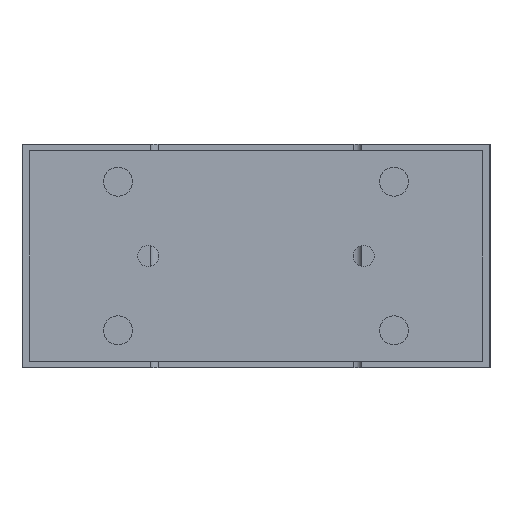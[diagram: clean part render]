
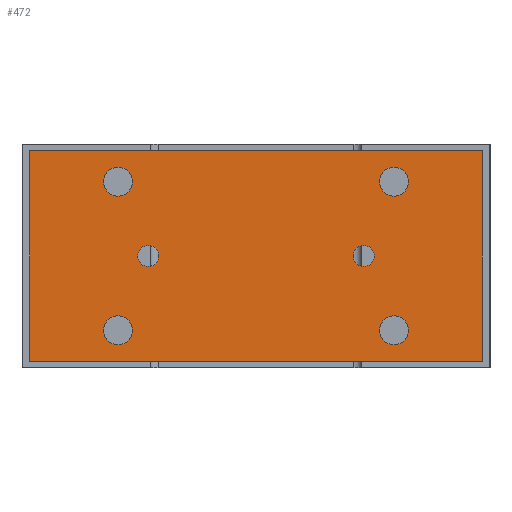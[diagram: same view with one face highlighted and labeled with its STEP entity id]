
A CAD part, left-side view. The second image highlights one B-rep face of the part: STEP entity #472.
In plain terms, the highlighted planar face has unit normal (-1, 0, 0).
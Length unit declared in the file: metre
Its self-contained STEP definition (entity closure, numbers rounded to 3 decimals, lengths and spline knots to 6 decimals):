
#472 = ADVANCED_FACE( '', ( #1117, #1118, #1119, #1120, #1121, #1122, #1123 ), #1124, .T. );
#1117 = FACE_BOUND( '', #1917, .T. );
#1118 = FACE_BOUND( '', #1918, .T. );
#1119 = FACE_BOUND( '', #1919, .T. );
#1120 = FACE_BOUND( '', #1920, .T. );
#1121 = FACE_BOUND( '', #1921, .T. );
#1122 = FACE_BOUND( '', #1922, .T. );
#1123 = FACE_OUTER_BOUND( '', #1923, .T. );
#1124 = PLANE( '', #1924 );
#1917 = EDGE_LOOP( '', ( #3120 ) );
#1918 = EDGE_LOOP( '', ( #3121 ) );
#1919 = EDGE_LOOP( '', ( #3122 ) );
#1920 = EDGE_LOOP( '', ( #3123 ) );
#1921 = EDGE_LOOP( '', ( #3124 ) );
#1922 = EDGE_LOOP( '', ( #3125 ) );
#1923 = EDGE_LOOP( '', ( #3126, #3127, #3128, #3129 ) );
#1924 = AXIS2_PLACEMENT_3D( '', #3130, #3131, #3132 );
#3120 = ORIENTED_EDGE( '', *, *, #4157, .F. );
#3121 = ORIENTED_EDGE( '', *, *, #4054, .F. );
#3122 = ORIENTED_EDGE( '', *, *, #4170, .F. );
#3123 = ORIENTED_EDGE( '', *, *, #3939, .F. );
#3124 = ORIENTED_EDGE( '', *, *, #4184, .F. );
#3125 = ORIENTED_EDGE( '', *, *, #3884, .T. );
#3126 = ORIENTED_EDGE( '', *, *, #4074, .T. );
#3127 = ORIENTED_EDGE( '', *, *, #4182, .T. );
#3128 = ORIENTED_EDGE( '', *, *, #3855, .T. );
#3129 = ORIENTED_EDGE( '', *, *, #4208, .T. );
#3130 = CARTESIAN_POINT( '', ( -0.118, -0.086, -0.0025 ) );
#3131 = DIRECTION( '', ( -1., 0., 0. ) );
#3132 = DIRECTION( '', ( 0., 0., 1. ) );
#3855 = EDGE_CURVE( '', #4455, #4453, #4456, .T. );
#3884 = EDGE_CURVE( '', #4504, #4504, #4505, .T. );
#3939 = EDGE_CURVE( '', #4597, #4597, #4598, .T. );
#4054 = EDGE_CURVE( '', #4783, #4783, #4784, .T. );
#4074 = EDGE_CURVE( '', #4813, #4811, #4814, .T. );
#4157 = EDGE_CURVE( '', #4938, #4938, #4939, .T. );
#4170 = EDGE_CURVE( '', #4958, #4958, #4959, .T. );
#4182 = EDGE_CURVE( '', #4811, #4455, #4976, .T. );
#4184 = EDGE_CURVE( '', #4978, #4978, #4979, .T. );
#4208 = EDGE_CURVE( '', #4453, #4813, #5012, .T. );
#4453 = VERTEX_POINT( '', #5338 );
#4455 = VERTEX_POINT( '', #5341 );
#4456 = LINE( '', #5342, #5343 );
#4504 = VERTEX_POINT( '', #5398 );
#4505 = CIRCLE( '', #5399, 0.004 );
#4597 = VERTEX_POINT( '', #5549 );
#4598 = CIRCLE( '', #5550, 0.0055 );
#4783 = VERTEX_POINT( '', #5813 );
#4784 = CIRCLE( '', #5814, 0.0055 );
#4811 = VERTEX_POINT( '', #5847 );
#4813 = VERTEX_POINT( '', #5850 );
#4814 = LINE( '', #5851, #5852 );
#4938 = VERTEX_POINT( '', #6052 );
#4939 = CIRCLE( '', #6053, 0.0055 );
#4958 = VERTEX_POINT( '', #6111 );
#4959 = CIRCLE( '', #6112, 0.0055 );
#4976 = LINE( '', #6131, #6132 );
#4978 = VERTEX_POINT( '', #6134 );
#4979 = CIRCLE( '', #6135, 0.004 );
#5012 = LINE( '', #6207, #6208 );
#5338 = CARTESIAN_POINT( '', ( -0.118, 0.086, -0.0825 ) );
#5341 = CARTESIAN_POINT( '', ( -0.118, 0.086, -0.0025 ) );
#5342 = CARTESIAN_POINT( '', ( -0.118, 0.086, -0.0025 ) );
#5343 = VECTOR( '', #6561, 1. );
#5398 = CARTESIAN_POINT( '', ( -0.118, 0.037, -0.0425 ) );
#5399 = AXIS2_PLACEMENT_3D( '', #6614, #6615, #6616 );
#5549 = CARTESIAN_POINT( '', ( -0.118, 0.0525, -0.00875 ) );
#5550 = AXIS2_PLACEMENT_3D( '', #6681, #6682, #6683 );
#5813 = CARTESIAN_POINT( '', ( -0.118, 0.0525, -0.06525 ) );
#5814 = AXIS2_PLACEMENT_3D( '', #6840, #6841, #6842 );
#5847 = CARTESIAN_POINT( '', ( -0.118, -0.086, -0.0025 ) );
#5850 = CARTESIAN_POINT( '', ( -0.118, -0.086, -0.0825 ) );
#5851 = CARTESIAN_POINT( '', ( -0.118, -0.086, -0.0825 ) );
#5852 = VECTOR( '', #6868, 1. );
#6052 = CARTESIAN_POINT( '', ( -0.118, -0.0525, -0.06525 ) );
#6053 = AXIS2_PLACEMENT_3D( '', #6942, #6943, #6944 );
#6111 = CARTESIAN_POINT( '', ( -0.118, -0.0525, -0.00875 ) );
#6112 = AXIS2_PLACEMENT_3D( '', #6954, #6955, #6956 );
#6131 = CARTESIAN_POINT( '', ( -0.118, -0.086, -0.0025 ) );
#6132 = VECTOR( '', #6971, 1. );
#6134 = CARTESIAN_POINT( '', ( -0.118, -0.037, -0.0425 ) );
#6135 = AXIS2_PLACEMENT_3D( '', #6972, #6973, #6974 );
#6207 = CARTESIAN_POINT( '', ( -0.118, 0.086, -0.0825 ) );
#6208 = VECTOR( '', #6996, 1. );
#6561 = DIRECTION( '', ( 0., 0., -1. ) );
#6614 = CARTESIAN_POINT( '', ( -0.118, 0.041, -0.0425 ) );
#6615 = DIRECTION( '', ( 1., 0., 0. ) );
#6616 = DIRECTION( '', ( 0., -1., 0. ) );
#6681 = CARTESIAN_POINT( '', ( -0.118, 0.0525, -0.01425 ) );
#6682 = DIRECTION( '', ( -1., 0., 0. ) );
#6683 = DIRECTION( '', ( 0., 0., 1. ) );
#6840 = CARTESIAN_POINT( '', ( -0.118, 0.0525, -0.07075 ) );
#6841 = DIRECTION( '', ( -1., 0., 0. ) );
#6842 = DIRECTION( '', ( 0., 0., 1. ) );
#6868 = DIRECTION( '', ( 0., 0., 1. ) );
#6942 = CARTESIAN_POINT( '', ( -0.118, -0.0525, -0.07075 ) );
#6943 = DIRECTION( '', ( -1., 0., 0. ) );
#6944 = DIRECTION( '', ( 0., 0., 1. ) );
#6954 = CARTESIAN_POINT( '', ( -0.118, -0.0525, -0.01425 ) );
#6955 = DIRECTION( '', ( -1., 0., 0. ) );
#6956 = DIRECTION( '', ( 0., 0., 1. ) );
#6971 = DIRECTION( '', ( 0., 1., 0. ) );
#6972 = CARTESIAN_POINT( '', ( -0.118, -0.041, -0.0425 ) );
#6973 = DIRECTION( '', ( -1., 0., 0. ) );
#6974 = DIRECTION( '', ( 0., 1., 0. ) );
#6996 = DIRECTION( '', ( 0., -1., 0. ) );
